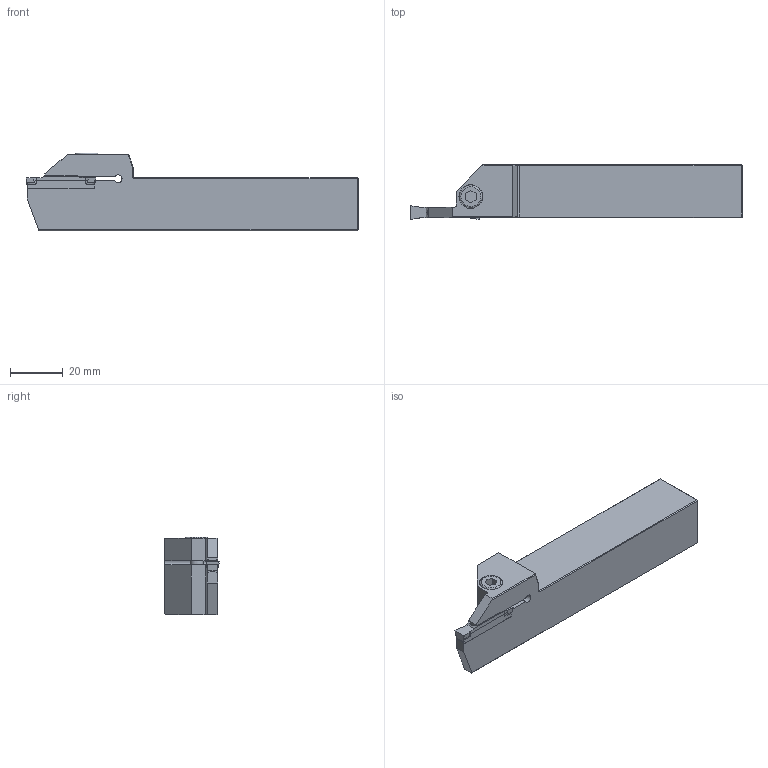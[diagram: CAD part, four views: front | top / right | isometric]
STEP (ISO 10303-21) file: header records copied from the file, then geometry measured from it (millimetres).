
FILE_DESCRIPTION(/* description */ (''),/* implementation_level */ '2;1');
FILE_NAME(/* name */ 'WEBDA_E00000481_00_DIN4003.stp',/* time_stamp */ '2021-08-04T07:54:51+02:00',/* author */ (''),/* organization */ (''),/* preprocessor_version */ 'ST-DEVELOPER v16',/* originating_system */ 'SIEMENS PLM Software NX 11.0',/* authorisation */ '');
FILE_SCHEMA (('AUTOMOTIVE_DESIGN { 1 0 10303 214 3 1 1 1 }'));
Length unit declared in the file: millimetre
Products named in the file (1): ja.h2854B24Bavhi
Bounding box: 125.5 x 20.5 x 29.3 mm (x, y, z)
Volume: 44229.7 mm3; surface area: 14079.8 mm2
Topology: 2 solids, 3 shells, 141 faces, 362 edges, 244 vertices
Faces by surface type: plane 85, cylinder 31, cone 16, bspline 8, torus 1
Full cylindrical faces by diameter (mm): 4.2 x1, 5 x1, 5.5 x1, 6 x1, 8.5 x1, 8.6 x1, 9 x1
Entity records: 4417 total; most frequent: CARTESIAN_POINT 1037, ORIENTED_EDGE 660, DIRECTION 660, EDGE_CURVE 330, LINE 236, VECTOR 236, VERTEX_POINT 217, AXIS2_PLACEMENT_3D 212
